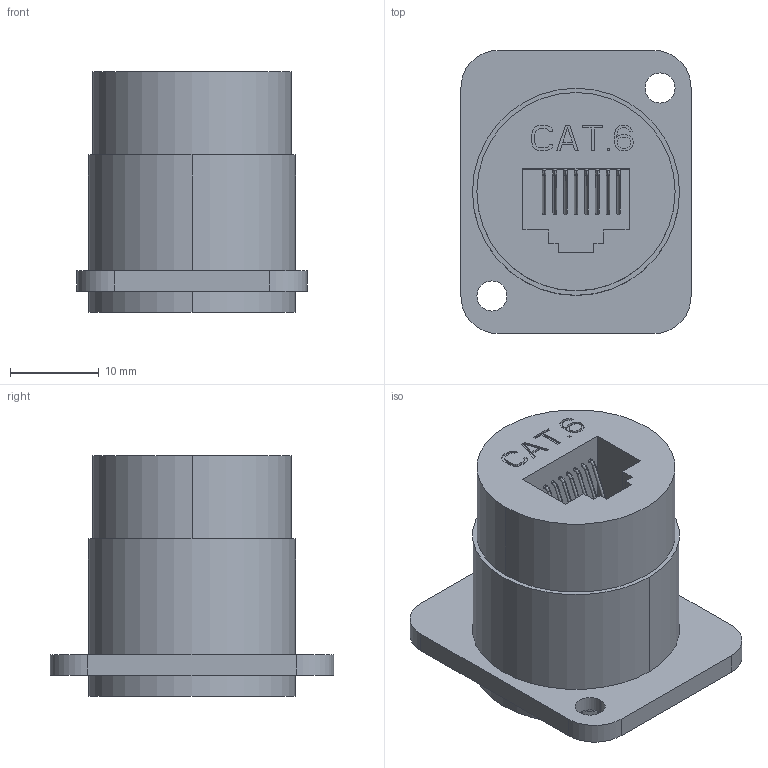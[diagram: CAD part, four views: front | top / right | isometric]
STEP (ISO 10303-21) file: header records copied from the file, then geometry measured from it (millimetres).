
FILE_DESCRIPTION((''),'2;1');
FILE_NAME('S-5866_CAT6_27MM_20001','2023-08-19T09:20:07',('Administrator'),(''),'CREO PARAMETRIC BY PTC INC, 2019010','CREO PARAMETRIC BY PTC INC, 2019010','');
FILE_SCHEMA(('CONFIG_CONTROL_DESIGN'));
Length unit declared in the file: millimetre
Products named in the file (1): S-5866_CAT6_27MM_20001
Bounding box: 26 x 32 x 27.2 mm (x, y, z)
Volume: 9737.7 mm3; surface area: 5021.9 mm2
Topology: 1 solids, 1 shells, 396 faces, 1078 edges, 704 vertices
Faces by surface type: plane 296, cylinder 64, bspline 32, cone 4
Entity records: 13708 total; most frequent: CARTESIAN_POINT 3754, ORIENTED_EDGE 2156, DIRECTION 1834, EDGE_CURVE 1078, VECTOR 890, LINE 890, VERTEX_POINT 704, AXIS2_PLACEMENT_3D 472
